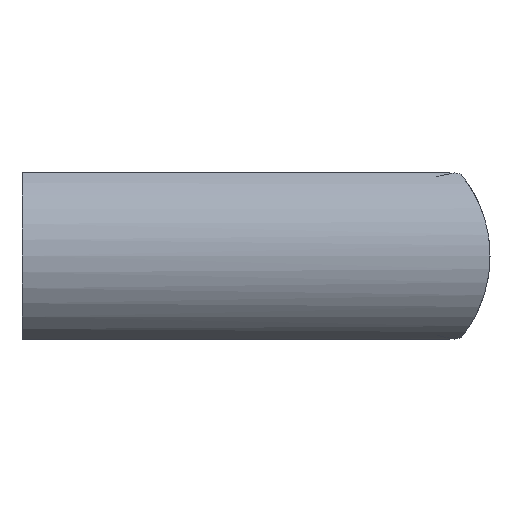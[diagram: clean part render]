
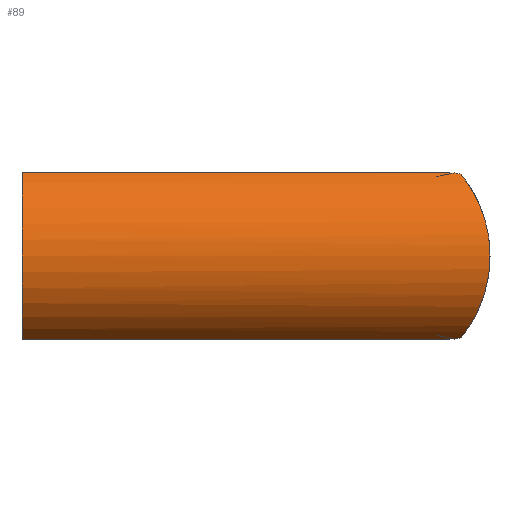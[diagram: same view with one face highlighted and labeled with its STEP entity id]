
A CAD part, left-side view. The second image highlights one B-rep face of the part: STEP entity #89.
In plain terms, the highlighted cylindrical face has radius 6.542 mm (diameter 13.083 mm), a partial arc.
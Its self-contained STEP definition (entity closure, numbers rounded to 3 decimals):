
#89 = ADVANCED_FACE( '', ( #132 ), #133, .T. );
#132 = FACE_OUTER_BOUND( '', #190, .T. );
#133 = CYLINDRICAL_SURFACE( '', #191, 6.542 );
#190 = EDGE_LOOP( '', ( #320, #321, #322, #323, #324, #325, #326, #327, #328, #329, #330 ) );
#191 = AXIS2_PLACEMENT_3D( '', #331, #332, #333 );
#320 = ORIENTED_EDGE( '', *, *, #482, .T. );
#321 = ORIENTED_EDGE( '', *, *, #496, .F. );
#322 = ORIENTED_EDGE( '', *, *, #497, .F. );
#323 = ORIENTED_EDGE( '', *, *, #498, .T. );
#324 = ORIENTED_EDGE( '', *, *, #478, .T. );
#325 = ORIENTED_EDGE( '', *, *, #472, .F. );
#326 = ORIENTED_EDGE( '', *, *, #471, .F. );
#327 = ORIENTED_EDGE( '', *, *, #467, .F. );
#328 = ORIENTED_EDGE( '', *, *, #466, .F. );
#329 = ORIENTED_EDGE( '', *, *, #499, .F. );
#330 = ORIENTED_EDGE( '', *, *, #500, .F. );
#331 = CARTESIAN_POINT( '', ( 0.042, 0., 0. ) );
#332 = DIRECTION( '', ( 0., 1., 0. ) );
#333 = DIRECTION( '', ( -0.541, 0., -0.841 ) );
#466 = EDGE_CURVE( '', #549, #551, #552, .T. );
#467 = EDGE_CURVE( '', #551, #553, #554, .T. );
#471 = EDGE_CURVE( '', #553, #560, #561, .T. );
#472 = EDGE_CURVE( '', #560, #562, #563, .T. );
#478 = EDGE_CURVE( '', #571, #562, #573, .T. );
#482 = EDGE_CURVE( '', #580, #577, #581, .T. );
#496 = EDGE_CURVE( '', #604, #577, #606, .T. );
#497 = EDGE_CURVE( '', #607, #604, #608, .T. );
#498 = EDGE_CURVE( '', #607, #571, #609, .T. );
#499 = EDGE_CURVE( '', #610, #549, #611, .T. );
#500 = EDGE_CURVE( '', #580, #610, #612, .T. );
#549 = VERTEX_POINT( '', #690 );
#551 = VERTEX_POINT( '', #693 );
#552 = B_SPLINE_CURVE_WITH_KNOTS( '', 3, ( #694, #695, #696, #697, #698, #699, #700, #701, #702, #703, #704, #705, #706, #707 ), .UNSPECIFIED., .F., .F., ( 4, 2, 2, 2, 2, 2, 4 ), ( 2.807, 3.611, 4.815, 5.915, 7.015, 8.114, 9.214 ), .UNSPECIFIED. );
#553 = VERTEX_POINT( '', #708 );
#554 = B_SPLINE_CURVE_WITH_KNOTS( '', 3, ( #709, #710, #711, #712, #713, #714, #715, #716, #717, #718, #719, #720, #721, #722 ), .UNSPECIFIED., .F., .F., ( 4, 2, 2, 2, 2, 2, 4 ), ( 9.214, 10.314, 11.414, 12.513, 13.613, 14.817, 15.621 ), .UNSPECIFIED. );
#560 = VERTEX_POINT( '', #749 );
#561 = B_SPLINE_CURVE_WITH_KNOTS( '', 3, ( #750, #751, #752, #753, #754, #755, #756, #757 ), .UNSPECIFIED., .F., .F., ( 4, 2, 2, 4 ), ( -0.491, -0.389, -0.195, 0. ), .UNSPECIFIED. );
#562 = VERTEX_POINT( '', #758 );
#563 = B_SPLINE_CURVE_WITH_KNOTS( '', 3, ( #759, #760, #761, #762, #763, #764 ), .UNSPECIFIED., .F., .F., ( 4, 2, 4 ), ( 0., 0.195, 0.356 ), .UNSPECIFIED. );
#571 = VERTEX_POINT( '', #780 );
#573 = CIRCLE( '', #783, 6.542 );
#577 = VERTEX_POINT( '', #788 );
#580 = VERTEX_POINT( '', #792 );
#581 = CIRCLE( '', #793, 6.542 );
#604 = VERTEX_POINT( '', #823 );
#606 = LINE( '', #826, #827 );
#607 = VERTEX_POINT( '', #828 );
#608 = CIRCLE( '', #829, 6.542 );
#609 = LINE( '', #830, #831 );
#610 = VERTEX_POINT( '', #832 );
#611 = B_SPLINE_CURVE_WITH_KNOTS( '', 3, ( #833, #834, #835, #836, #837, #838, #839, #840 ), .UNSPECIFIED., .F., .F., ( 4, 2, 2, 4 ), ( 3.68, 3.875, 4.069, 4.171 ), .UNSPECIFIED. );
#612 = B_SPLINE_CURVE_WITH_KNOTS( '', 3, ( #841, #842, #843, #844, #845, #846 ), .UNSPECIFIED., .F., .F., ( 4, 2, 4 ), ( 3.318, 3.456, 3.68 ), .UNSPECIFIED. );
#690 = CARTESIAN_POINT( '', ( -3.66, -29.088, 5.394 ) );
#693 = CARTESIAN_POINT( '', ( -6.5, -31., 0. ) );
#694 = CARTESIAN_POINT( '', ( -3.66, -29.088, 5.394 ) );
#695 = CARTESIAN_POINT( '', ( -3.874, -29.207, 5.247 ) );
#696 = CARTESIAN_POINT( '', ( -4.078, -29.328, 5.088 ) );
#697 = CARTESIAN_POINT( '', ( -4.56, -29.624, 4.666 ) );
#698 = CARTESIAN_POINT( '', ( -4.822, -29.796, 4.39 ) );
#699 = CARTESIAN_POINT( '', ( -5.265, -30.097, 3.84 ) );
#700 = CARTESIAN_POINT( '', ( -5.467, -30.238, 3.547 ) );
#701 = CARTESIAN_POINT( '', ( -5.827, -30.496, 2.914 ) );
#702 = CARTESIAN_POINT( '', ( -5.985, -30.613, 2.573 ) );
#703 = CARTESIAN_POINT( '', ( -6.241, -30.803, 1.862 ) );
#704 = CARTESIAN_POINT( '', ( -6.339, -30.877, 1.492 ) );
#705 = CARTESIAN_POINT( '', ( -6.469, -30.976, 0.744 ) );
#706 = CARTESIAN_POINT( '', ( -6.5, -31., 0.367 ) );
#707 = CARTESIAN_POINT( '', ( -6.5, -31., 0. ) );
#708 = CARTESIAN_POINT( '', ( -3.66, -29.088, -5.394 ) );
#709 = CARTESIAN_POINT( '', ( -6.5, -31., 0. ) );
#710 = CARTESIAN_POINT( '', ( -6.5, -31., -0.367 ) );
#711 = CARTESIAN_POINT( '', ( -6.469, -30.976, -0.744 ) );
#712 = CARTESIAN_POINT( '', ( -6.339, -30.877, -1.492 ) );
#713 = CARTESIAN_POINT( '', ( -6.241, -30.803, -1.862 ) );
#714 = CARTESIAN_POINT( '', ( -5.985, -30.613, -2.573 ) );
#715 = CARTESIAN_POINT( '', ( -5.827, -30.496, -2.914 ) );
#716 = CARTESIAN_POINT( '', ( -5.467, -30.238, -3.547 ) );
#717 = CARTESIAN_POINT( '', ( -5.265, -30.097, -3.84 ) );
#718 = CARTESIAN_POINT( '', ( -4.822, -29.796, -4.39 ) );
#719 = CARTESIAN_POINT( '', ( -4.56, -29.624, -4.666 ) );
#720 = CARTESIAN_POINT( '', ( -4.078, -29.328, -5.088 ) );
#721 = CARTESIAN_POINT( '', ( -3.874, -29.207, -5.247 ) );
#722 = CARTESIAN_POINT( '', ( -3.66, -29.088, -5.394 ) );
#749 = CARTESIAN_POINT( '', ( -3.5, -28.639, -5.5 ) );
#750 = CARTESIAN_POINT( '', ( -3.66, -29.088, -5.394 ) );
#751 = CARTESIAN_POINT( '', ( -3.64, -29.061, -5.407 ) );
#752 = CARTESIAN_POINT( '', ( -3.622, -29.033, -5.42 ) );
#753 = CARTESIAN_POINT( '', ( -3.573, -28.949, -5.453 ) );
#754 = CARTESIAN_POINT( '', ( -3.546, -28.89, -5.47 ) );
#755 = CARTESIAN_POINT( '', ( -3.51, -28.768, -5.494 ) );
#756 = CARTESIAN_POINT( '', ( -3.5, -28.704, -5.5 ) );
#757 = CARTESIAN_POINT( '', ( -3.5, -28.639, -5.5 ) );
#758 = CARTESIAN_POINT( '', ( -3.589, -28.302, -5.442 ) );
#759 = CARTESIAN_POINT( '', ( -3.5, -28.639, -5.5 ) );
#760 = CARTESIAN_POINT( '', ( -3.5, -28.574, -5.5 ) );
#761 = CARTESIAN_POINT( '', ( -3.51, -28.51, -5.494 ) );
#762 = CARTESIAN_POINT( '', ( -3.543, -28.398, -5.472 ) );
#763 = CARTESIAN_POINT( '', ( -3.564, -28.349, -5.458 ) );
#764 = CARTESIAN_POINT( '', ( -3.589, -28.302, -5.442 ) );
#780 = CARTESIAN_POINT( '', ( -3.5, -28.302, -5.5 ) );
#783 = AXIS2_PLACEMENT_3D( '', #992, #993, #994 );
#788 = CARTESIAN_POINT( '', ( -3.5, -28.302, 5.5 ) );
#792 = CARTESIAN_POINT( '', ( -3.589, -28.302, 5.442 ) );
#793 = AXIS2_PLACEMENT_3D( '', #1000, #1001, #1002 );
#823 = CARTESIAN_POINT( '', ( -3.5, 0., 5.5 ) );
#826 = CARTESIAN_POINT( '', ( -3.5, 0., 5.5 ) );
#827 = VECTOR( '', #1026, 1. );
#828 = CARTESIAN_POINT( '', ( -3.5, 0., -5.5 ) );
#829 = AXIS2_PLACEMENT_3D( '', #1027, #1028, #1029 );
#830 = CARTESIAN_POINT( '', ( -3.5, 0., -5.5 ) );
#831 = VECTOR( '', #1030, 1. );
#832 = CARTESIAN_POINT( '', ( -3.5, -28.639, 5.5 ) );
#833 = CARTESIAN_POINT( '', ( -3.5, -28.639, 5.5 ) );
#834 = CARTESIAN_POINT( '', ( -3.5, -28.704, 5.5 ) );
#835 = CARTESIAN_POINT( '', ( -3.51, -28.768, 5.494 ) );
#836 = CARTESIAN_POINT( '', ( -3.546, -28.89, 5.47 ) );
#837 = CARTESIAN_POINT( '', ( -3.573, -28.949, 5.453 ) );
#838 = CARTESIAN_POINT( '', ( -3.622, -29.033, 5.42 ) );
#839 = CARTESIAN_POINT( '', ( -3.64, -29.061, 5.407 ) );
#840 = CARTESIAN_POINT( '', ( -3.66, -29.088, 5.394 ) );
#841 = CARTESIAN_POINT( '', ( -3.589, -28.302, 5.442 ) );
#842 = CARTESIAN_POINT( '', ( -3.568, -28.341, 5.456 ) );
#843 = CARTESIAN_POINT( '', ( -3.55, -28.382, 5.467 ) );
#844 = CARTESIAN_POINT( '', ( -3.513, -28.492, 5.492 ) );
#845 = CARTESIAN_POINT( '', ( -3.5, -28.564, 5.5 ) );
#846 = CARTESIAN_POINT( '', ( -3.5, -28.639, 5.5 ) );
#992 = CARTESIAN_POINT( '', ( 0.042, -28.302, 0. ) );
#993 = DIRECTION( '', ( 0., 1., 0. ) );
#994 = DIRECTION( '', ( -0.541, 0., -0.841 ) );
#1000 = CARTESIAN_POINT( '', ( 0.042, -28.302, 0. ) );
#1001 = DIRECTION( '', ( 0., 1., 0. ) );
#1002 = DIRECTION( '', ( -0.541, 0., -0.841 ) );
#1026 = DIRECTION( '', ( 0., -1., 0. ) );
#1027 = CARTESIAN_POINT( '', ( 0.042, 0., 0. ) );
#1028 = DIRECTION( '', ( 0., 1., 0. ) );
#1029 = DIRECTION( '', ( -0.541, 0., -0.841 ) );
#1030 = DIRECTION( '', ( 0., -1., 0. ) );
